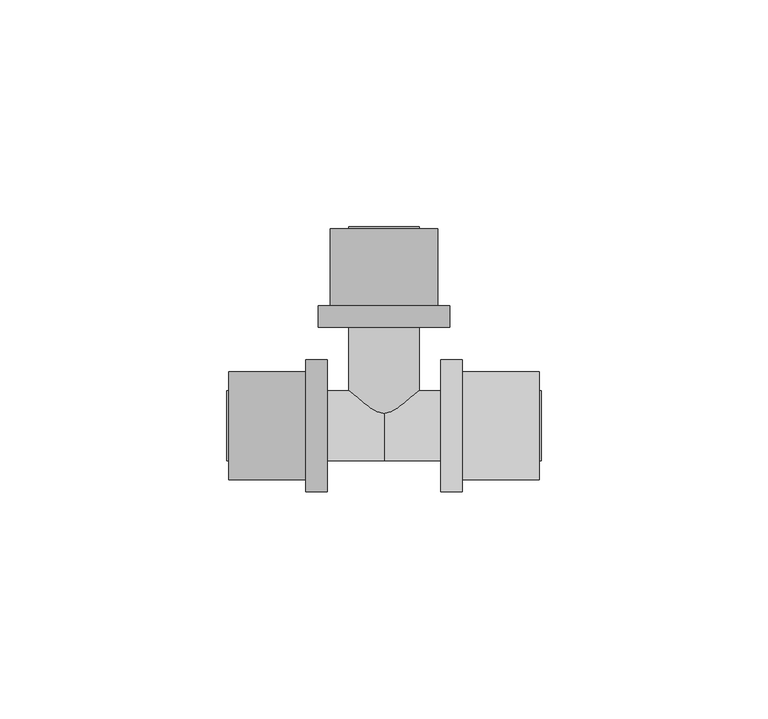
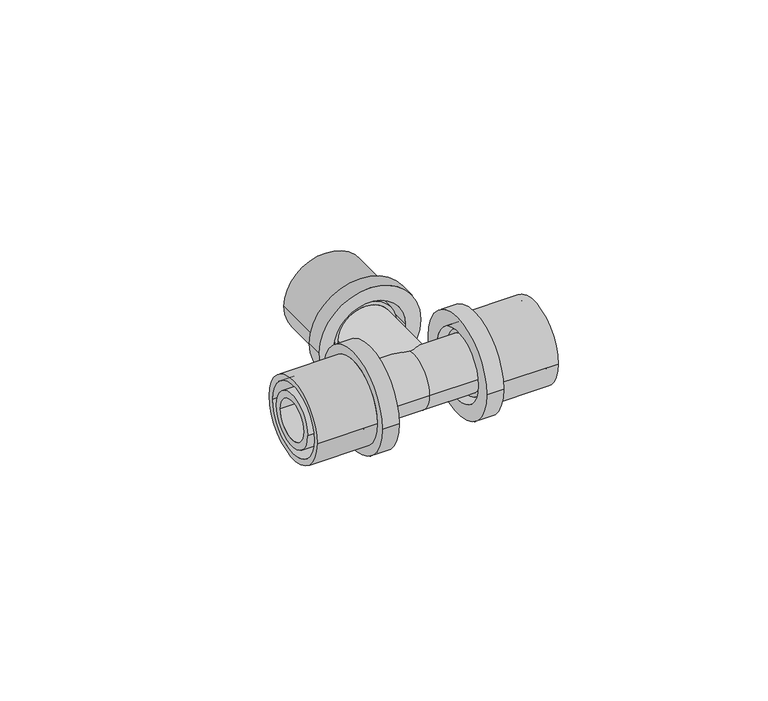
"""IFC4 building model written with IfcOpenShell, lengths in millimetres: pipe fitting geometry, FASTLOC_T-piece_EX+ : FSL T-Piece EX+ AT."""

from ifc_helpers import new_model, si_unit, frame, origin, place, context, project, spatial, polyline, circle_curve, source, transform, mapped, element, save
from ifc_brep_helpers import plane_surface, cylinder_surface, revolved_surface, advanced_brep


def pipe_fitting_26206a52(model_context):
    return source(origin(), model_context, "Body", "AdvancedBrep", [
        advanced_brep(
        [(17.2, 14.5, 0.0), (17.2, -14.5, 0.0), (12.5, -14.5, 0.0), (12.5, 14.5, 0.0), (34.2, 11.85, 0.0), (34.2, -11.85, 0.0), (17.2, -11.85, 0.0), (17.2, 11.85, 0.0), (12.5, 10.15, 0.0), (12.5, -10.15, 0.0), (34.2, -10.15, 0.0), (34.2, 10.15, 0.0)],
        [
            (0, 1, circle_curve(frame((17.2, 0.0, 0.0), z_axis=(-1.0, 0.0, 0.0), x_axis=(0.0, -1.0, 0.0)), 14.5)),
            (1, 2),
            (2, 3, circle_curve(frame((12.5, 0.0, 0.0), z_axis=(1.0, 0.0, 0.0), x_axis=(0.0, -1.0, 0.0)), 14.5)),
            (3, 0),
            (4, 5, circle_curve(frame((34.2, 0.0, 0.0), z_axis=(-1.0, 0.0, 0.0), x_axis=(0.0, -1.0, 0.0)), 11.85)),
            (5, 6),
            (6, 7, circle_curve(frame((17.2, 0.0, 0.0), z_axis=(1.0, 0.0, 0.0), x_axis=(0.0, -1.0, 0.0)), 11.85)),
            (7, 4),
            (8, 9, circle_curve(frame((12.5, 0.0, 0.0), z_axis=(-1.0, 0.0, 0.0), x_axis=(0.0, -1.0, 0.0)), 10.15)),
            (9, 10),
            (10, 11, circle_curve(frame((34.2, 0.0, 0.0), z_axis=(1.0, 0.0, 0.0), x_axis=(0.0, -1.0, 0.0)), 10.15)),
            (11, 8),
            (1, 0, circle_curve(frame((17.2, 0.0, 0.0), z_axis=(-1.0, 0.0, 0.0), x_axis=(0.0, 1.0, 0.0)), 14.5)),
            (3, 2, circle_curve(frame((12.5, 0.0, 0.0), z_axis=(1.0, 0.0, 0.0), x_axis=(0.0, 1.0, 0.0)), 14.5)),
            (6, 7, circle_curve(frame((17.2, 0.0, 0.0), z_axis=(-1.0, 0.0, 0.0), x_axis=(0.0, 1.0, 0.0)), 11.85)),
            (5, 4, circle_curve(frame((34.2, 0.0, 0.0), z_axis=(-1.0, 0.0, 0.0), x_axis=(0.0, 1.0, 0.0)), 11.85)),
            (10, 11, circle_curve(frame((34.2, 0.0, 0.0), z_axis=(-1.0, 0.0, 0.0), x_axis=(0.0, 1.0, 0.0)), 10.15)),
            (9, 8, circle_curve(frame((12.5, 0.0, 0.0), z_axis=(-1.0, 0.0, 0.0), x_axis=(0.0, 1.0, 0.0)), 10.15)),
        ],
        [
            cylinder_surface(frame((12.5, 0.0, 0.0), z_axis=(1.0, 0.0, 0.0), x_axis=(0.0, -1.0, 0.0)), 14.5),
            cylinder_surface(frame((12.5, 0.0, 0.0), z_axis=(1.0, 0.0, 0.0), x_axis=(0.0, -1.0, 0.0)), 11.85),
            revolved_surface(polyline([(34.2, -10.15, 0.0), (12.5, -10.15, 0.0)]), (12.5, 0.0, 0.0), (1.0, 0.0, 0.0)),
            cylinder_surface(frame((12.5, 0.0, 0.0), z_axis=(1.0, 0.0, 0.0), x_axis=(0.0, 1.0, 0.0)), 14.5),
            plane_surface(frame((17.2, 0.0, 0.0), z_axis=(1.0, 0.0, 0.0), x_axis=(0.0, 1.0, 0.0))),
            cylinder_surface(frame((12.5, 0.0, 0.0), z_axis=(1.0, 0.0, 0.0), x_axis=(0.0, 1.0, 0.0)), 11.85),
            plane_surface(frame((34.2, 0.0, 0.0), z_axis=(1.0, 0.0, 0.0), x_axis=(0.0, 1.0, 0.0))),
            revolved_surface(polyline([(34.2, 10.15, 0.0), (12.5, 10.15, 0.0)]), (12.5, 0.0, 0.0), (1.0, 0.0, 0.0)),
            plane_surface(frame((12.5, 0.0, 0.0), z_axis=(-1.0, 0.0, 0.0), x_axis=(0.0, 1.0, 0.0))),
        ],
        [
            (0, [[1, 2, 3, 4]]),
            (1, [[5, 6, 7, 8]]),
            (2, [[9, 10, 11, 12]]),
            (3, [[13, -4, 14, -2]]),
            (4, [[-13, -1], [15, -7]]),
            (5, [[16, -8, -15, -6]]),
            (6, [[-16, -5], [17, -11]]),
            (7, [[18, -12, -17, -10]]),
            (8, [[-14, -3], [-18, -9]]),
        ],
    ),
        advanced_brep(
        [(-17.2, -14.5, 0.0), (-17.2, 14.5, 0.0), (-12.5, 14.5, 0.0), (-12.5, -14.5, 0.0), (-34.2, -11.85, 0.0), (-34.2, 11.85, 0.0), (-17.2, 11.85, 0.0), (-17.2, -11.85, 0.0), (-12.5, -10.15, 0.0), (-12.5, 10.15, 0.0), (-34.2, 10.15, 0.0), (-34.2, -10.15, 0.0)],
        [
            (0, 1, circle_curve(frame((-17.2, 0.0, 0.0), z_axis=(1.0, 0.0, 0.0), x_axis=(0.0, 1.0, 0.0)), 14.5)),
            (1, 2),
            (2, 3, circle_curve(frame((-12.5, 0.0, 0.0), z_axis=(-1.0, 0.0, 0.0), x_axis=(0.0, 1.0, 0.0)), 14.5)),
            (3, 0),
            (4, 5, circle_curve(frame((-34.2, 0.0, 0.0), z_axis=(1.0, 0.0, 0.0), x_axis=(0.0, 1.0, 0.0)), 11.85)),
            (5, 6),
            (6, 7, circle_curve(frame((-17.2, 0.0, 0.0), z_axis=(-1.0, 0.0, 0.0), x_axis=(0.0, 1.0, 0.0)), 11.85)),
            (7, 4),
            (8, 9, circle_curve(frame((-12.5, 0.0, 0.0), z_axis=(1.0, 0.0, 0.0), x_axis=(0.0, 1.0, 0.0)), 10.15)),
            (9, 10),
            (10, 11, circle_curve(frame((-34.2, 0.0, 0.0), z_axis=(-1.0, 0.0, 0.0), x_axis=(0.0, 1.0, 0.0)), 10.15)),
            (11, 8),
            (1, 0, circle_curve(frame((-17.2, 0.0, 0.0), z_axis=(1.0, 0.0, 0.0), x_axis=(0.0, -1.0, 0.0)), 14.5)),
            (3, 2, circle_curve(frame((-12.5, 0.0, 0.0), z_axis=(-1.0, 0.0, 0.0), x_axis=(0.0, -1.0, 0.0)), 14.5)),
            (6, 7, circle_curve(frame((-17.2, 0.0, 0.0), z_axis=(1.0, 0.0, 0.0), x_axis=(0.0, -1.0, 0.0)), 11.85)),
            (5, 4, circle_curve(frame((-34.2, 0.0, 0.0), z_axis=(1.0, 0.0, 0.0), x_axis=(0.0, -1.0, 0.0)), 11.85)),
            (10, 11, circle_curve(frame((-34.2, 0.0, 0.0), z_axis=(1.0, 0.0, 0.0), x_axis=(0.0, -1.0, 0.0)), 10.15)),
            (9, 8, circle_curve(frame((-12.5, 0.0, 0.0), z_axis=(1.0, 0.0, 0.0), x_axis=(0.0, -1.0, 0.0)), 10.15)),
        ],
        [
            cylinder_surface(frame((-12.5, 0.0, 0.0), z_axis=(-1.0, 0.0, 0.0), x_axis=(0.0, 1.0, 0.0)), 14.5),
            cylinder_surface(frame((-12.5, 0.0, 0.0), z_axis=(-1.0, 0.0, 0.0), x_axis=(0.0, 1.0, 0.0)), 11.85),
            revolved_surface(polyline([(-34.2, 10.15, 0.0), (-12.5, 10.15, 0.0)]), (-12.5, 0.0, 0.0), (-1.0, 0.0, 0.0)),
            cylinder_surface(frame((-12.5, 0.0, 0.0), z_axis=(-1.0, 0.0, 0.0), x_axis=(0.0, -1.0, 0.0)), 14.5),
            plane_surface(frame((-17.2, 0.0, 0.0), z_axis=(-1.0, 0.0, 0.0), x_axis=(0.0, -1.0, 0.0))),
            cylinder_surface(frame((-12.5, 0.0, 0.0), z_axis=(-1.0, 0.0, 0.0), x_axis=(0.0, -1.0, 0.0)), 11.85),
            plane_surface(frame((-34.2, 0.0, 0.0), z_axis=(-1.0, 0.0, 0.0), x_axis=(0.0, -1.0, 0.0))),
            revolved_surface(polyline([(-34.2, -10.15, 0.0), (-12.5, -10.15, 0.0)]), (-12.5, 0.0, 0.0), (-1.0, 0.0, 0.0)),
            plane_surface(frame((-12.5, 0.0, 0.0), z_axis=(1.0, 0.0, 0.0), x_axis=(0.0, -1.0, 0.0))),
        ],
        [
            (0, [[1, 2, 3, 4]]),
            (1, [[5, 6, 7, 8]]),
            (2, [[9, 10, 11, 12]]),
            (3, [[13, -4, 14, -2]]),
            (4, [[-13, -1], [15, -7]]),
            (5, [[16, -8, -15, -6]]),
            (6, [[-16, -5], [17, -11]]),
            (7, [[18, -12, -17, -10]]),
            (8, [[-14, -3], [-18, -9]]),
        ],
    ),
        advanced_brep(
        [(-14.5, 26.4, 0.0), (14.5, 26.4, 0.0), (14.5, 21.7, 0.0), (-14.5, 21.7, 0.0), (-11.85, 43.4, 0.0), (11.85, 43.4, 0.0), (11.85, 26.4, 0.0), (-11.85, 26.4, 0.0), (-10.15, 21.7, 0.0), (10.15, 21.7, 0.0), (10.15, 43.4, 0.0), (-10.15, 43.4, 0.0)],
        [
            (0, 1, circle_curve(frame((0.0, 26.4, 0.0), z_axis=(0.0, -1.0, 0.0), x_axis=(1.0, 0.0, 0.0)), 14.5)),
            (1, 2),
            (2, 3, circle_curve(frame((0.0, 21.7, 0.0), z_axis=(0.0, 1.0, 0.0), x_axis=(1.0, 0.0, 0.0)), 14.5)),
            (3, 0),
            (4, 5, circle_curve(frame((0.0, 43.4, 0.0), z_axis=(0.0, -1.0, 0.0), x_axis=(1.0, 0.0, 0.0)), 11.85)),
            (5, 6),
            (6, 7, circle_curve(frame((0.0, 26.4, 0.0), z_axis=(0.0, 1.0, 0.0), x_axis=(1.0, 0.0, 0.0)), 11.85)),
            (7, 4),
            (8, 9, circle_curve(frame((0.0, 21.7, 0.0), z_axis=(0.0, -1.0, 0.0), x_axis=(1.0, 0.0, 0.0)), 10.15)),
            (9, 10),
            (10, 11, circle_curve(frame((0.0, 43.4, 0.0), z_axis=(0.0, 1.0, 0.0), x_axis=(1.0, 0.0, 0.0)), 10.15)),
            (11, 8),
            (1, 0, circle_curve(frame((0.0, 26.4, 0.0), z_axis=(0.0, -1.0, 0.0), x_axis=(-1.0, 0.0, 0.0)), 14.5)),
            (3, 2, circle_curve(frame((0.0, 21.7, 0.0), z_axis=(0.0, 1.0, 0.0), x_axis=(-1.0, 0.0, 0.0)), 14.5)),
            (6, 7, circle_curve(frame((0.0, 26.4, 0.0), z_axis=(0.0, -1.0, 0.0), x_axis=(-1.0, 0.0, 0.0)), 11.85)),
            (5, 4, circle_curve(frame((0.0, 43.4, 0.0), z_axis=(0.0, -1.0, 0.0), x_axis=(-1.0, 0.0, 0.0)), 11.85)),
            (10, 11, circle_curve(frame((0.0, 43.4, 0.0), z_axis=(0.0, -1.0, 0.0), x_axis=(-1.0, 0.0, 0.0)), 10.15)),
            (9, 8, circle_curve(frame((0.0, 21.7, 0.0), z_axis=(0.0, -1.0, 0.0), x_axis=(-1.0, 0.0, 0.0)), 10.15)),
        ],
        [
            cylinder_surface(frame((0.0, 21.7, 0.0), z_axis=(0.0, 1.0, 0.0), x_axis=(1.0, 0.0, 0.0)), 14.5),
            cylinder_surface(frame((0.0, 21.7, 0.0), z_axis=(0.0, 1.0, 0.0), x_axis=(1.0, 0.0, 0.0)), 11.85),
            revolved_surface(polyline([(10.15, 43.4, 0.0), (10.15, 21.7, 0.0)]), (0.0, 21.7, 0.0), (0.0, 1.0, 0.0)),
            cylinder_surface(frame((0.0, 21.7, 0.0), z_axis=(0.0, 1.0, 0.0), x_axis=(-1.0, 0.0, 0.0)), 14.5),
            plane_surface(frame((0.0, 26.4, 0.0), z_axis=(0.0, 1.0, 0.0), x_axis=(-1.0, 0.0, 0.0))),
            cylinder_surface(frame((0.0, 21.7, 0.0), z_axis=(0.0, 1.0, 0.0), x_axis=(-1.0, 0.0, 0.0)), 11.85),
            plane_surface(frame((0.0, 43.4, 0.0), z_axis=(0.0, 1.0, 0.0), x_axis=(-1.0, 0.0, 0.0))),
            revolved_surface(polyline([(-10.15, 43.4, 0.0), (-10.15, 21.7, 0.0)]), (0.0, 21.7, 0.0), (0.0, 1.0, 0.0)),
            plane_surface(frame((0.0, 21.7, 0.0), z_axis=(0.0, -1.0, 0.0), x_axis=(-1.0, 0.0, 0.0))),
        ],
        [
            (0, [[1, 2, 3, 4]]),
            (1, [[5, 6, 7, 8]]),
            (2, [[9, 10, 11, 12]]),
            (3, [[13, -4, 14, -2]]),
            (4, [[-13, -1], [15, -7]]),
            (5, [[16, -8, -15, -6]]),
            (6, [[-16, -5], [17, -11]]),
            (7, [[18, -12, -17, -10]]),
            (8, [[-14, -3], [-18, -9]]),
        ],
    ),
        advanced_brep(
        [(0.0, 7.75, 0.0), (0.0, -7.75, 0.0), (-14.53, -7.75, 0.0), (-14.53, 7.75, 0.0), (14.53, 7.75, 0.0), (14.53, -7.75, 0.0), (17.2, 8.8, 0.0), (17.2, -8.8, 0.0), (14.53, -8.8, 0.0), (14.53, 8.8, 0.0), (34.6, 7.75, 0.0), (34.6, -7.75, 0.0), (17.2, -7.75, 0.0), (17.2, 7.75, 0.0), (-34.6, 5.75, 0.0), (-34.6, -5.75, 0.0), (34.6, -5.75, 0.0), (34.6, 5.75, 0.0), (-17.2, 7.75, 0.0), (-17.2, -7.75, 0.0), (-34.6, -7.75, 0.0), (-34.6, 7.75, 0.0), (-14.53, 8.8, 0.0), (-14.53, -8.8, 0.0), (-17.2, -8.8, 0.0), (-17.2, 8.8, 0.0)],
        [
            (0, 1, circle_curve(frame((0.0, 0.0, 0.0), z_axis=(-1.0, 0.0, 0.0), x_axis=(0.0, -1.0, 0.0)), 7.75)),
            (1, 2),
            (2, 3, circle_curve(frame((-14.53, 0.0, 0.0), z_axis=(1.0, 0.0, 0.0), x_axis=(0.0, -1.0, 0.0)), 7.75)),
            (3, 0),
            (4, 5, circle_curve(frame((14.53, 0.0, 0.0), z_axis=(-1.0, 0.0, 0.0), x_axis=(0.0, -1.0, 0.0)), 7.75)),
            (5, 1),
            (0, 4),
            (6, 7, circle_curve(frame((17.2, 0.0, 0.0), z_axis=(-1.0, 0.0, 0.0), x_axis=(0.0, -1.0, 0.0)), 8.8)),
            (7, 8),
            (8, 9, circle_curve(frame((14.53, 0.0, 0.0), z_axis=(1.0, 0.0, 0.0), x_axis=(0.0, -1.0, 0.0)), 8.8)),
            (9, 6),
            (10, 11, circle_curve(frame((34.6, 0.0, 0.0), z_axis=(-1.0, 0.0, 0.0), x_axis=(0.0, -1.0, 0.0)), 7.75)),
            (11, 12),
            (12, 13, circle_curve(frame((17.2, 0.0, 0.0), z_axis=(1.0, 0.0, 0.0), x_axis=(0.0, -1.0, 0.0)), 7.75)),
            (13, 10),
            (14, 15, circle_curve(frame((-34.6, 0.0, 0.0), z_axis=(-1.0, 0.0, 0.0), x_axis=(0.0, -1.0, 0.0)), 5.75)),
            (15, 16),
            (16, 17, circle_curve(frame((34.6, 0.0, 0.0), z_axis=(1.0, 0.0, 0.0), x_axis=(0.0, -1.0, 0.0)), 5.75)),
            (17, 14),
            (18, 19, circle_curve(frame((-17.2, 0.0, 0.0), z_axis=(-1.0, 0.0, 0.0), x_axis=(0.0, -1.0, 0.0)), 7.75)),
            (19, 20),
            (20, 21, circle_curve(frame((-34.6, 0.0, 0.0), z_axis=(1.0, 0.0, 0.0), x_axis=(0.0, -1.0, 0.0)), 7.75)),
            (21, 18),
            (22, 23, circle_curve(frame((-14.53, 0.0, 0.0), z_axis=(-1.0, 0.0, 0.0), x_axis=(0.0, -1.0, 0.0)), 8.8)),
            (23, 24),
            (24, 25, circle_curve(frame((-17.2, 0.0, 0.0), z_axis=(1.0, 0.0, 0.0), x_axis=(0.0, -1.0, 0.0)), 8.8)),
            (25, 22),
            (22, 23, circle_curve(frame((-14.53, 0.0, 0.0), z_axis=(1.0, 0.0, 0.0), x_axis=(0.0, 1.0, 0.0)), 8.8)),
            (2, 3, circle_curve(frame((-14.53, 0.0, 0.0), z_axis=(-1.0, 0.0, 0.0), x_axis=(0.0, 1.0, 0.0)), 7.75)),
            (1, 0, circle_curve(frame((0.0, 0.0, 0.0), z_axis=(-1.0, 0.0, 0.0), x_axis=(0.0, 1.0, 0.0)), 7.75)),
            (5, 4, circle_curve(frame((14.53, 0.0, 0.0), z_axis=(-1.0, 0.0, 0.0), x_axis=(0.0, 1.0, 0.0)), 7.75)),
            (8, 9, circle_curve(frame((14.53, 0.0, 0.0), z_axis=(-1.0, 0.0, 0.0), x_axis=(0.0, 1.0, 0.0)), 8.8)),
            (7, 6, circle_curve(frame((17.2, 0.0, 0.0), z_axis=(-1.0, 0.0, 0.0), x_axis=(0.0, 1.0, 0.0)), 8.8)),
            (12, 13, circle_curve(frame((17.2, 0.0, 0.0), z_axis=(-1.0, 0.0, 0.0), x_axis=(0.0, 1.0, 0.0)), 7.75)),
            (11, 10, circle_curve(frame((34.6, 0.0, 0.0), z_axis=(-1.0, 0.0, 0.0), x_axis=(0.0, 1.0, 0.0)), 7.75)),
            (16, 17, circle_curve(frame((34.6, 0.0, 0.0), z_axis=(-1.0, 0.0, 0.0), x_axis=(0.0, 1.0, 0.0)), 5.75)),
            (15, 14, circle_curve(frame((-34.6, 0.0, 0.0), z_axis=(-1.0, 0.0, 0.0), x_axis=(0.0, 1.0, 0.0)), 5.75)),
            (20, 21, circle_curve(frame((-34.6, 0.0, 0.0), z_axis=(-1.0, 0.0, 0.0), x_axis=(0.0, 1.0, 0.0)), 7.75)),
            (19, 18, circle_curve(frame((-17.2, 0.0, 0.0), z_axis=(-1.0, 0.0, 0.0), x_axis=(0.0, 1.0, 0.0)), 7.75)),
            (24, 25, circle_curve(frame((-17.2, 0.0, 0.0), z_axis=(-1.0, 0.0, 0.0), x_axis=(0.0, 1.0, 0.0)), 8.8)),
        ],
        [
            cylinder_surface(frame((0.0, 0.0, 0.0), z_axis=(1.0, 0.0, 0.0), x_axis=(0.0, -1.0, 0.0)), 7.75),
            cylinder_surface(frame((0.0, 0.0, 0.0), z_axis=(1.0, 0.0, 0.0), x_axis=(0.0, -1.0, 0.0)), 8.8),
            revolved_surface(polyline([(34.6, -5.75, 0.0), (-34.6, -5.75, 0.0)]), (0.0, 0.0, 0.0), (1.0, 0.0, 0.0)),
            plane_surface(frame((-14.53, 0.0, 0.0), z_axis=(1.0, 0.0, 0.0), x_axis=(0.0, 1.0, 0.0))),
            cylinder_surface(frame((0.0, 0.0, 0.0), z_axis=(1.0, 0.0, 0.0), x_axis=(0.0, 1.0, 0.0)), 7.75),
            plane_surface(frame((14.53, 0.0, 0.0), z_axis=(-1.0, 0.0, 0.0), x_axis=(0.0, 1.0, 0.0))),
            cylinder_surface(frame((0.0, 0.0, 0.0), z_axis=(1.0, 0.0, 0.0), x_axis=(0.0, 1.0, 0.0)), 8.8),
            plane_surface(frame((17.2, 0.0, 0.0), z_axis=(1.0, 0.0, 0.0), x_axis=(0.0, 1.0, 0.0))),
            plane_surface(frame((34.6, 0.0, 0.0), z_axis=(1.0, 0.0, 0.0), x_axis=(0.0, 1.0, 0.0))),
            revolved_surface(polyline([(34.6, 5.75, 0.0), (-34.6, 5.75, 0.0)]), (0.0, 0.0, 0.0), (1.0, 0.0, 0.0)),
            plane_surface(frame((-34.6, 0.0, 0.0), z_axis=(-1.0, 0.0, 0.0), x_axis=(0.0, 1.0, 0.0))),
            plane_surface(frame((-17.2, 0.0, 0.0), z_axis=(-1.0, 0.0, 0.0), x_axis=(0.0, 1.0, 0.0))),
        ],
        [
            (0, [[1, 2, 3, 4]]),
            (0, [[5, 6, -1, 7]]),
            (1, [[8, 9, 10, 11]]),
            (0, [[12, 13, 14, 15]]),
            (2, [[16, 17, 18, 19]]),
            (0, [[20, 21, 22, 23]]),
            (1, [[24, 25, 26, 27]]),
            (3, [[28, -24], [29, -3]]),
            (4, [[30, -4, -29, -2]]),
            (4, [[31, -7, -30, -6]]),
            (5, [[32, -10], [-31, -5]]),
            (6, [[33, -11, -32, -9]]),
            (7, [[-33, -8], [34, -14]]),
            (4, [[35, -15, -34, -13]]),
            (8, [[-35, -12], [36, -18]]),
            (9, [[37, -19, -36, -17]]),
            (10, [[38, -22], [-37, -16]]),
            (4, [[39, -23, -38, -21]]),
            (11, [[40, -26], [-39, -20]]),
            (6, [[-28, -27, -40, -25]]),
        ],
    ),
        advanced_brep(
        [(5.75, 43.8, 0.0), (-5.75, 43.8, 0.0), (-5.75, 0.0, 0.0), (5.75, 0.0, 0.0), (7.75, 0.0, 0.0), (-7.75, 0.0, 0.0), (-7.75, 23.73, 0.0), (7.75, 23.73, 0.0), (8.8, 23.73, 0.0), (-8.8, 23.73, 0.0), (-8.8, 26.4, 0.0), (8.8, 26.4, 0.0), (7.75, 26.4, 0.0), (-7.75, 26.4, 0.0), (-7.75, 43.8, 0.0), (7.75, 43.8, 0.0)],
        [
            (0, 1, circle_curve(frame((0.0, 43.8, 0.0), z_axis=(0.0, 1.0, 0.0), x_axis=(-1.0, 0.0, 0.0)), 5.75)),
            (1, 2),
            (2, 3, circle_curve(frame((0.0, 0.0, 0.0), z_axis=(0.0, -1.0, 0.0), x_axis=(-1.0, 0.0, 0.0)), 5.75)),
            (3, 0),
            (4, 5, circle_curve(frame((0.0, 0.0, 0.0), z_axis=(0.0, 1.0, 0.0), x_axis=(-1.0, 0.0, 0.0)), 7.75)),
            (5, 6),
            (6, 7, circle_curve(frame((0.0, 23.73, 0.0), z_axis=(0.0, -1.0, 0.0), x_axis=(-1.0, 0.0, 0.0)), 7.75)),
            (7, 4),
            (8, 9, circle_curve(frame((0.0, 23.73, 0.0), z_axis=(0.0, 1.0, 0.0), x_axis=(-1.0, 0.0, 0.0)), 8.8)),
            (9, 10),
            (10, 11, circle_curve(frame((0.0, 26.4, 0.0), z_axis=(0.0, -1.0, 0.0), x_axis=(-1.0, 0.0, 0.0)), 8.8)),
            (11, 8),
            (12, 13, circle_curve(frame((0.0, 26.4, 0.0), z_axis=(0.0, 1.0, 0.0), x_axis=(-1.0, 0.0, 0.0)), 7.75)),
            (13, 14),
            (14, 15, circle_curve(frame((0.0, 43.8, 0.0), z_axis=(0.0, -1.0, 0.0), x_axis=(-1.0, 0.0, 0.0)), 7.75)),
            (15, 12),
            (1, 0, circle_curve(frame((0.0, 43.8, 0.0), z_axis=(0.0, 1.0, 0.0), x_axis=(1.0, 0.0, 0.0)), 5.75)),
            (3, 2, circle_curve(frame((0.0, 0.0, 0.0), z_axis=(0.0, -1.0, 0.0), x_axis=(1.0, 0.0, 0.0)), 5.75)),
            (4, 5, circle_curve(frame((0.0, 0.0, 0.0), z_axis=(0.0, -1.0, 0.0), x_axis=(1.0, 0.0, 0.0)), 7.75)),
            (7, 6, circle_curve(frame((0.0, 23.73, 0.0), z_axis=(0.0, -1.0, 0.0), x_axis=(1.0, 0.0, 0.0)), 7.75)),
            (8, 9, circle_curve(frame((0.0, 23.73, 0.0), z_axis=(0.0, -1.0, 0.0), x_axis=(1.0, 0.0, 0.0)), 8.8)),
            (11, 10, circle_curve(frame((0.0, 26.4, 0.0), z_axis=(0.0, -1.0, 0.0), x_axis=(1.0, 0.0, 0.0)), 8.8)),
            (12, 13, circle_curve(frame((0.0, 26.4, 0.0), z_axis=(0.0, -1.0, 0.0), x_axis=(1.0, 0.0, 0.0)), 7.75)),
            (15, 14, circle_curve(frame((0.0, 43.8, 0.0), z_axis=(0.0, -1.0, 0.0), x_axis=(1.0, 0.0, 0.0)), 7.75)),
        ],
        [
            revolved_surface(polyline([(-5.75, 0.0, 0.0), (-5.75, 43.8, 0.0)]), (0.0, 0.0, 0.0), (0.0, -1.0, 0.0)),
            cylinder_surface(frame((0.0, 0.0, 0.0), z_axis=(0.0, -1.0, 0.0), x_axis=(-1.0, 0.0, 0.0)), 7.75),
            cylinder_surface(frame((0.0, 0.0, 0.0), z_axis=(0.0, -1.0, 0.0), x_axis=(-1.0, 0.0, 0.0)), 8.8),
            revolved_surface(polyline([(5.75, 0.0, 0.0), (5.75, 43.8, 0.0)]), (0.0, 0.0, 0.0), (0.0, -1.0, 0.0)),
            plane_surface(frame((0.0, 0.0, 0.0), z_axis=(0.0, -1.0, 0.0), x_axis=(1.0, 0.0, 0.0))),
            cylinder_surface(frame((0.0, 0.0, 0.0), z_axis=(0.0, -1.0, 0.0), x_axis=(1.0, 0.0, 0.0)), 7.75),
            plane_surface(frame((0.0, 23.73, 0.0), z_axis=(0.0, -1.0, 0.0), x_axis=(1.0, 0.0, 0.0))),
            cylinder_surface(frame((0.0, 0.0, 0.0), z_axis=(0.0, -1.0, 0.0), x_axis=(1.0, 0.0, 0.0)), 8.8),
            plane_surface(frame((0.0, 26.4, 0.0), z_axis=(0.0, 1.0, 0.0), x_axis=(1.0, 0.0, 0.0))),
            plane_surface(frame((0.0, 43.8, 0.0), z_axis=(0.0, 1.0, 0.0), x_axis=(1.0, 0.0, 0.0))),
        ],
        [
            (0, [[1, 2, 3, 4]]),
            (1, [[5, 6, 7, 8]]),
            (2, [[9, 10, 11, 12]]),
            (1, [[13, 14, 15, 16]]),
            (3, [[17, -4, 18, -2]]),
            (4, [[19, -5], [-18, -3]]),
            (5, [[-19, -8, 20, -6]]),
            (6, [[21, -9], [-20, -7]]),
            (7, [[-21, -12, 22, -10]]),
            (8, [[-22, -11], [23, -13]]),
            (5, [[-23, -16, 24, -14]]),
            (9, [[-24, -15], [-17, -1]]),
        ],
    ),
    ])


if __name__ == "__main__":
    model = new_model("IFC4")
    model_context = context("Model", 3, world=origin())
    ifc_project = project(units=[si_unit("LENGTHUNIT", "METRE", prefix="MILLI")], contexts=[model_context])
    site = spatial("IfcSite", under=ifc_project)
    building = spatial("IfcBuilding", under=site)
    placement = place(None, origin())
    pipe_fitting_shape = pipe_fitting_26206a52(model_context)
    element("IfcPipeFitting", 1, ObjectType="FASTLOC_T-piece_EX+ : FSL T-Piece EX+ AT", at=placement, inside=building, context=model_context, shape_type="MappedRepresentation", body=[
        mapped(pipe_fitting_shape, transform((0.0, 0.0, 0.0), x_axis=(1.0, 0.0, 0.0), y_axis=(0.0, 1.0, 0.0), z_axis=(0.0, 0.0, 1.0))),
    ])
    save(model, "model.ifc")
